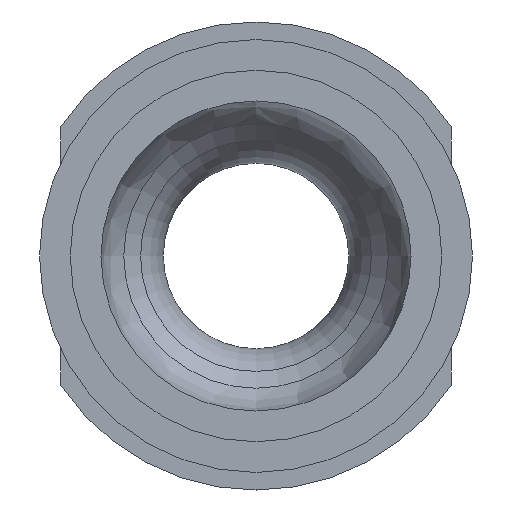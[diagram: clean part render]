
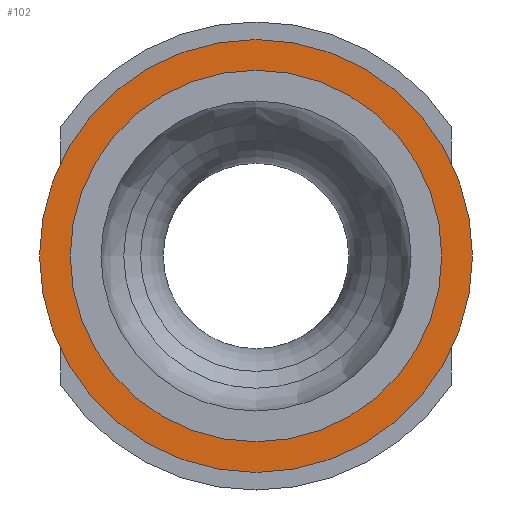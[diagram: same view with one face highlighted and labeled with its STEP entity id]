
A CAD part, left-side view. The second image highlights one B-rep face of the part: STEP entity #102.
In plain terms, the highlighted planar face has unit normal (-1, 0, 0).
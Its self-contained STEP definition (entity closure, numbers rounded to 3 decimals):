
#102 = ADVANCED_FACE( '', ( #189, #190 ), #191, .T. );
#189 = FACE_OUTER_BOUND( '', #317, .T. );
#190 = FACE_BOUND( '', #318, .T. );
#191 = PLANE( '', #319 );
#317 = EDGE_LOOP( '', ( #607 ) );
#318 = EDGE_LOOP( '', ( #608 ) );
#319 = AXIS2_PLACEMENT_3D( '', #609, #610, #611 );
#607 = ORIENTED_EDGE( '', *, *, #765, .T. );
#608 = ORIENTED_EDGE( '', *, *, #766, .F. );
#609 = CARTESIAN_POINT( '', ( -23.63, 0., 9.525 ) );
#610 = DIRECTION( '', ( -1., 0., 0. ) );
#611 = DIRECTION( '', ( 0., 0., 1. ) );
#765 = EDGE_CURVE( '', #882, #882, #883, .T. );
#766 = EDGE_CURVE( '', #884, #884, #885, .T. );
#882 = VERTEX_POINT( '', #1052 );
#883 = CIRCLE( '', #1053, 11.1 );
#884 = VERTEX_POINT( '', #1054 );
#885 = CIRCLE( '', #1055, 9.525 );
#1052 = CARTESIAN_POINT( '', ( -23.63, 0., 11.1 ) );
#1053 = AXIS2_PLACEMENT_3D( '', #1198, #1199, #1200 );
#1054 = CARTESIAN_POINT( '', ( -23.63, 0., 9.525 ) );
#1055 = AXIS2_PLACEMENT_3D( '', #1201, #1202, #1203 );
#1198 = CARTESIAN_POINT( '', ( -23.63, 0., 0. ) );
#1199 = DIRECTION( '', ( -1., 0., 0. ) );
#1200 = DIRECTION( '', ( 0., 0., 1. ) );
#1201 = CARTESIAN_POINT( '', ( -23.63, 0., 0. ) );
#1202 = DIRECTION( '', ( -1., 0., 0. ) );
#1203 = DIRECTION( '', ( 0., 0., 1. ) );
